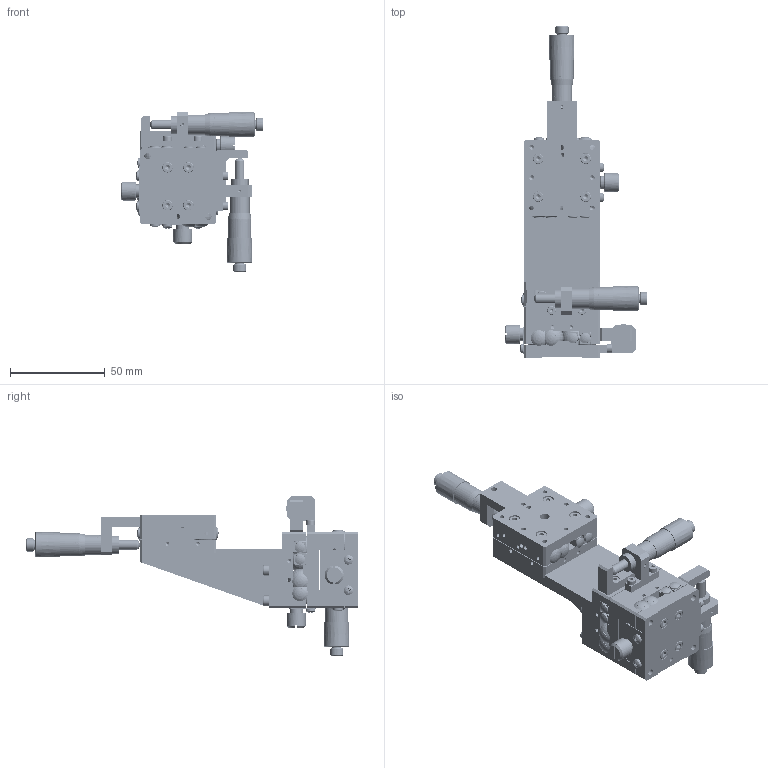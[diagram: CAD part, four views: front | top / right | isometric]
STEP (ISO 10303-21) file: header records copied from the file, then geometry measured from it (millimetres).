
FILE_DESCRIPTION (( 'STEP AP203' ), '1' );
FILE_NAME ('BVD40.STEP', '2024-07-23T11:57:07', ( 'Windows User' ), ( 'P R C' ), 'SwSTEP 2.0', 'SolidWorks 2024', '' );
FILE_SCHEMA (( 'CONFIG_CONTROL_DESIGN' ));
Products named in the file (1): BVD40
Bounding box: 75.4 x 175 x 84.2 mm (x, y, z)
Volume: 123475 mm3; surface area: 103243.7 mm2
Topology: 97 solids, 97 shells, 4530 faces, 11211 edges, 7243 vertices
Faces by surface type: plane 1917, bspline 1185, cylinder 813, cone 537, torus 69, sphere 9
Full cylindrical faces by diameter (mm): 2 x30, 2.05 x45, 2.5 x58, 2.55 x24, 2.9 x2, 2.95 x27, 3 x46, 3.1 x6, 3.2 x5, 3.4 x39, 3.5 x4, 4.4 x24, 4.5 x8, 5 x18, 5.5 x39, 5.8 x4, 6 x39, 7 x6, 8.5 x3, 9.5 x6, 10 x3, 10.5 x3, 12.2 x3
Entity records: 222642 total; most frequent: CARTESIAN_POINT 131267, ORIENTED_EDGE 20268, DIRECTION 14154, EDGE_CURVE 10134, VERTEX_POINT 6926, EDGE_LOOP 6006, AXIS2_PLACEMENT_3D 5254, FACE_OUTER_BOUND 4972
